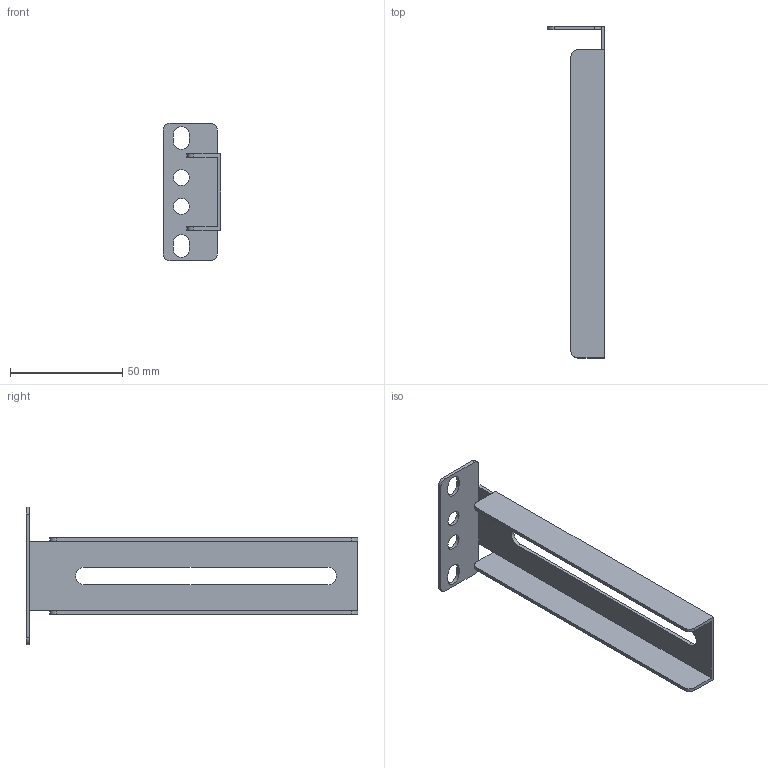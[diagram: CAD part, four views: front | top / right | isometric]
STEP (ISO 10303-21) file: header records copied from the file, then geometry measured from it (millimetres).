
FILE_DESCRIPTION(/* description */ (''),/* implementation_level */ '2;1');
FILE_NAME(/* name */ 'SGD150',/* time_stamp */ '2025-02-04T10:16:28+01:00',/* author */ ('Anitrano Rafael Marcelo'),/* organization */ ('QUADRITALIA SRL'),/* preprocessor_version */ 'ST-DEVELOPER v19.4',/* originating_system */ 'Solid Edge',/* authorisation */ 'Unknown');
FILE_SCHEMA (('AUTOMOTIVE_DESIGN {1 0 10303 214 3 1 1}'));
Length unit declared in the file: millimetre
Products named in the file (1): SGD150
Bounding box: 25.5 x 147.5 x 61 mm (x, y, z)
Volume: 13531.3 mm3; surface area: 19325.4 mm2
Topology: 1 solids, 1 shells, 42 faces, 118 edges, 78 vertices
Faces by surface type: plane 26, cylinder 16
Full cylindrical faces by diameter (mm): 7 x2
Entity records: 1380 total; most frequent: CARTESIAN_POINT 233, DIRECTION 232, ORIENTED_EDGE 228, EDGE_CURVE 114, LINE 82, VECTOR 82, VERTEX_POINT 76, AXIS2_PLACEMENT_3D 75
